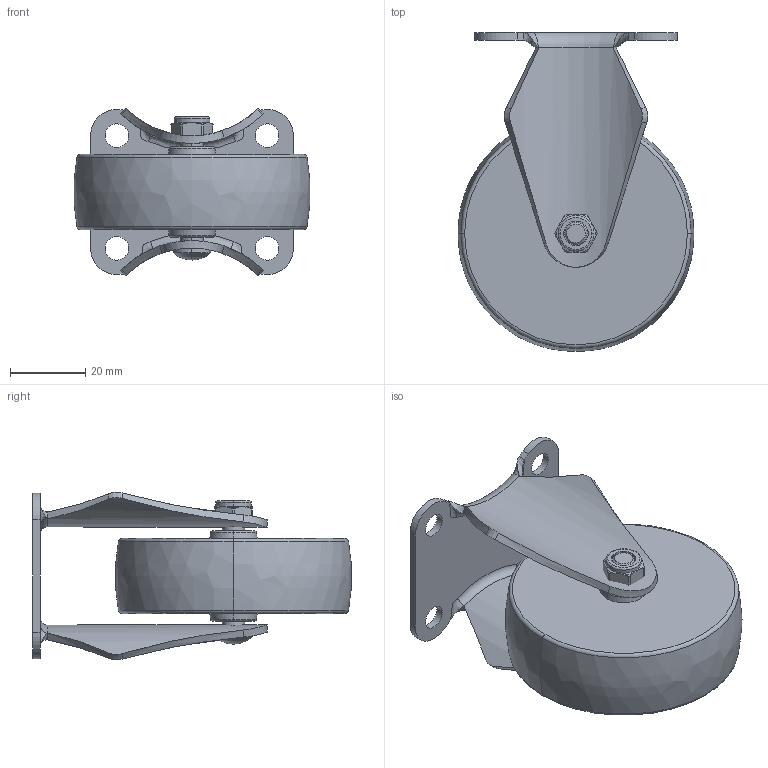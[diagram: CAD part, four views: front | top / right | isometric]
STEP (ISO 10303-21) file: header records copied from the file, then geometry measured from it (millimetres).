
FILE_DESCRIPTION((''),'2;1');
FILE_NAME('261015-2615-83_ASM','2019-12-13T',('L'),(''),'PRO/ENGINEER BY PARAMETRIC TECHNOLOGY CORPORATION, 2010280','PRO/ENGINEER BY PARAMETRIC TECHNOLOGY CORPORATION, 2010280','');
FILE_SCHEMA(('CONFIG_CONTROL_DESIGN'));
Length unit declared in the file: millimetre
Products named in the file (5): 261025; 2625-83; 2610-020; 2610-031; 261015-2615-83_ASM
Assembly tree (4 placements, depth 2):
  261015-2615-83_ASM
    261025
    2625-83
    2610-020
    2610-031
Bounding box: 62.81 x 84.9 x 44.64 mm (x, y, z)
Volume: 72438.9 mm3; surface area: 22690.8 mm2
Topology: 4 solids, 4 shells, 138 faces, 340 edges, 213 vertices
Faces by surface type: cylinder 40, bspline 32, plane 28, torus 20, cone 16, sphere 2
Entity records: 5679 total; most frequent: CARTESIAN_POINT 2384, ORIENTED_EDGE 676, DIRECTION 652, EDGE_CURVE 338, AXIS2_PLACEMENT_3D 275, VERTEX_POINT 213, CIRCLE 160, EDGE_LOOP 159
